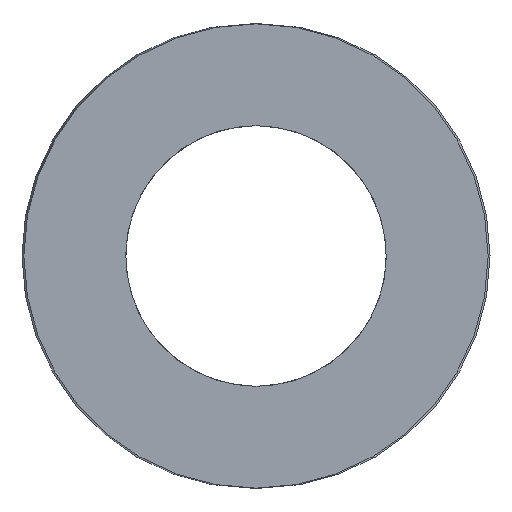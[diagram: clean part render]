
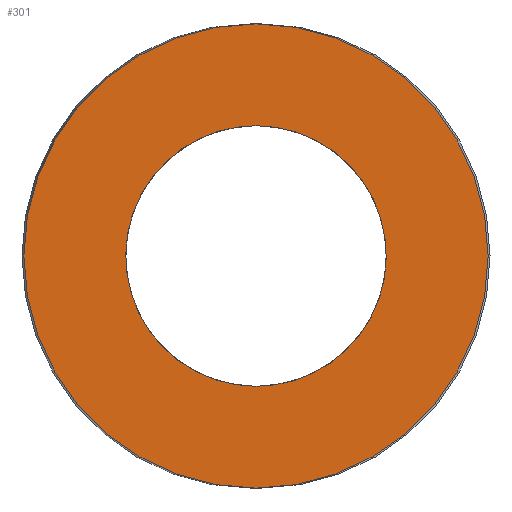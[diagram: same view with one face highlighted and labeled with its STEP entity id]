
A CAD part, left-side view. The second image highlights one B-rep face of the part: STEP entity #301.
In plain terms, the highlighted planar face has unit normal (-1, 0, 0).
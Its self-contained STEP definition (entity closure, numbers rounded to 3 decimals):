
#63=CARTESIAN_POINT('Vertex',(0.,15.5,0.)) ;
#77=CARTESIAN_POINT('Vertex',(0.,-15.5,0.)) ;
#80=CARTESIAN_POINT('Axis2P3D Location',(0.,0.,0.)) ;
#97=CARTESIAN_POINT('Axis2P3D Location',(0.,0.,0.)) ;
#232=CARTESIAN_POINT('Axis2P3D Location',(0.,7.75,0.)) ;
#242=CARTESIAN_POINT('Control Point',(0.,0.,-8.7)) ;
#243=CARTESIAN_POINT('Control Point',(0.,0.867,-8.7)) ;
#244=CARTESIAN_POINT('Control Point',(0.,1.734,-8.592)) ;
#245=CARTESIAN_POINT('Control Point',(0.,2.583,-8.376)) ;
#246=CARTESIAN_POINT('Control Point',(0.,4.209,-7.737)) ;
#247=CARTESIAN_POINT('Control Point',(0.,5.629,-6.719)) ;
#248=CARTESIAN_POINT('Control Point',(0.,6.272,-6.123)) ;
#249=CARTESIAN_POINT('Control Point',(0.,7.395,-4.785)) ;
#250=CARTESIAN_POINT('Control Point',(0.,8.156,-3.211)) ;
#251=CARTESIAN_POINT('Control Point',(0.,8.436,-2.381)) ;
#252=CARTESIAN_POINT('Control Point',(0.,8.783,-0.669)) ;
#253=CARTESIAN_POINT('Control Point',(0.,8.699,1.077)) ;
#254=CARTESIAN_POINT('Control Point',(0.,8.548,1.94)) ;
#255=CARTESIAN_POINT('Control Point',(0.,8.034,3.61)) ;
#256=CARTESIAN_POINT('Control Point',(0.,7.127,5.103)) ;
#257=CARTESIAN_POINT('Control Point',(0.,6.581,5.789)) ;
#258=CARTESIAN_POINT('Control Point',(0.,5.332,7.011)) ;
#259=CARTESIAN_POINT('Control Point',(0.,3.821,7.888)) ;
#260=CARTESIAN_POINT('Control Point',(0.,3.015,8.231)) ;
#261=CARTESIAN_POINT('Control Point',(0.,1.918,8.541)) ;
#262=CARTESIAN_POINT('Control Point',(0.,0.793,8.67)) ;
#263=CARTESIAN_POINT('Control Point',(0.,0.529,8.69)) ;
#264=CARTESIAN_POINT('Control Point',(0.,0.264,8.7)) ;
#265=CARTESIAN_POINT('Control Point',(0.,0.,8.7)) ;
#266=CARTESIAN_POINT('Vertex',(0.,0.,-8.7)) ;
#268=CARTESIAN_POINT('Vertex',(0.,0.,8.7)) ;
#272=CARTESIAN_POINT('Control Point',(0.,0.,8.7)) ;
#273=CARTESIAN_POINT('Control Point',(0.,-0.867,8.7)) ;
#274=CARTESIAN_POINT('Control Point',(0.,-1.734,8.592)) ;
#275=CARTESIAN_POINT('Control Point',(0.,-2.583,8.376)) ;
#276=CARTESIAN_POINT('Control Point',(0.,-4.209,7.737)) ;
#277=CARTESIAN_POINT('Control Point',(0.,-5.629,6.719)) ;
#278=CARTESIAN_POINT('Control Point',(0.,-6.272,6.123)) ;
#279=CARTESIAN_POINT('Control Point',(0.,-7.395,4.785)) ;
#280=CARTESIAN_POINT('Control Point',(0.,-8.156,3.211)) ;
#281=CARTESIAN_POINT('Control Point',(0.,-8.436,2.381)) ;
#282=CARTESIAN_POINT('Control Point',(0.,-8.783,0.669)) ;
#283=CARTESIAN_POINT('Control Point',(0.,-8.699,-1.077)) ;
#284=CARTESIAN_POINT('Control Point',(0.,-8.548,-1.94)) ;
#285=CARTESIAN_POINT('Control Point',(0.,-8.034,-3.61)) ;
#286=CARTESIAN_POINT('Control Point',(0.,-7.127,-5.103)) ;
#287=CARTESIAN_POINT('Control Point',(0.,-6.581,-5.789)) ;
#288=CARTESIAN_POINT('Control Point',(0.,-5.332,-7.011)) ;
#289=CARTESIAN_POINT('Control Point',(0.,-3.821,-7.888)) ;
#290=CARTESIAN_POINT('Control Point',(0.,-3.015,-8.231)) ;
#291=CARTESIAN_POINT('Control Point',(0.,-1.918,-8.541)) ;
#292=CARTESIAN_POINT('Control Point',(0.,-0.793,-8.67)) ;
#293=CARTESIAN_POINT('Control Point',(0.,-0.529,-8.69)) ;
#294=CARTESIAN_POINT('Control Point',(0.,-0.264,-8.7)) ;
#295=CARTESIAN_POINT('Control Point',(0.,0.,-8.7)) ;
#81=DIRECTION('Axis2P3D Direction',(1.,-0.,0.)) ;
#98=DIRECTION('Axis2P3D Direction',(1.,-0.,0.)) ;
#233=DIRECTION('Axis2P3D Direction',(-1.,0.,0.)) ;
#234=DIRECTION('Axis2P3D XDirection',(0.,1.,0.)) ;
#82=AXIS2_PLACEMENT_3D('Circle Axis2P3D',#80,#81,$) ;
#99=AXIS2_PLACEMENT_3D('Circle Axis2P3D',#97,#98,$) ;
#235=AXIS2_PLACEMENT_3D('Plane Axis2P3D',#232,#233,#234) ;
#238=ORIENTED_EDGE('',*,*,#84,.T.) ;
#239=ORIENTED_EDGE('',*,*,#101,.T.) ;
#298=ORIENTED_EDGE('',*,*,#270,.T.) ;
#299=ORIENTED_EDGE('',*,*,#296,.T.) ;
#300=FACE_BOUND('',#297,.T.) ;
#301=ADVANCED_FACE('392-B32-051',(#240,#300),#236,.T.) ;
#241=B_SPLINE_CURVE_WITH_KNOTS('',5,(#242,#243,#244,#245,#246,#247,#248,#249,#250,#251,#252,#253,#254,#255,#256,#257,#258,#259,#260,#261,#262,#263,#264,#265),.UNSPECIFIED.,.F.,.U.,(6,3,3,3,3,3,3,6),(0.,6.131,12.261,18.392,24.522,30.653,36.783,38.652),.UNSPECIFIED.) ;
#271=B_SPLINE_CURVE_WITH_KNOTS('',5,(#272,#273,#274,#275,#276,#277,#278,#279,#280,#281,#282,#283,#284,#285,#286,#287,#288,#289,#290,#291,#292,#293,#294,#295),.UNSPECIFIED.,.F.,.U.,(6,3,3,3,3,3,3,6),(0.,6.131,12.261,18.392,24.522,30.653,36.783,38.652),.UNSPECIFIED.) ;
#83=CIRCLE('generated circle',#82,15.5) ;
#100=CIRCLE('generated circle',#99,15.5) ;
#84=EDGE_CURVE('',#64,#78,#83,.F.) ;
#101=EDGE_CURVE('',#78,#64,#100,.F.) ;
#270=EDGE_CURVE('',#267,#269,#241,.T.) ;
#296=EDGE_CURVE('',#269,#267,#271,.T.) ;
#237=EDGE_LOOP('',(#238,#239)) ;
#297=EDGE_LOOP('',(#298,#299)) ;
#240=FACE_OUTER_BOUND('',#237,.T.) ;
#236=PLANE('Plane',#235) ;
#64=VERTEX_POINT('',#63) ;
#78=VERTEX_POINT('',#77) ;
#267=VERTEX_POINT('',#266) ;
#269=VERTEX_POINT('',#268) ;
